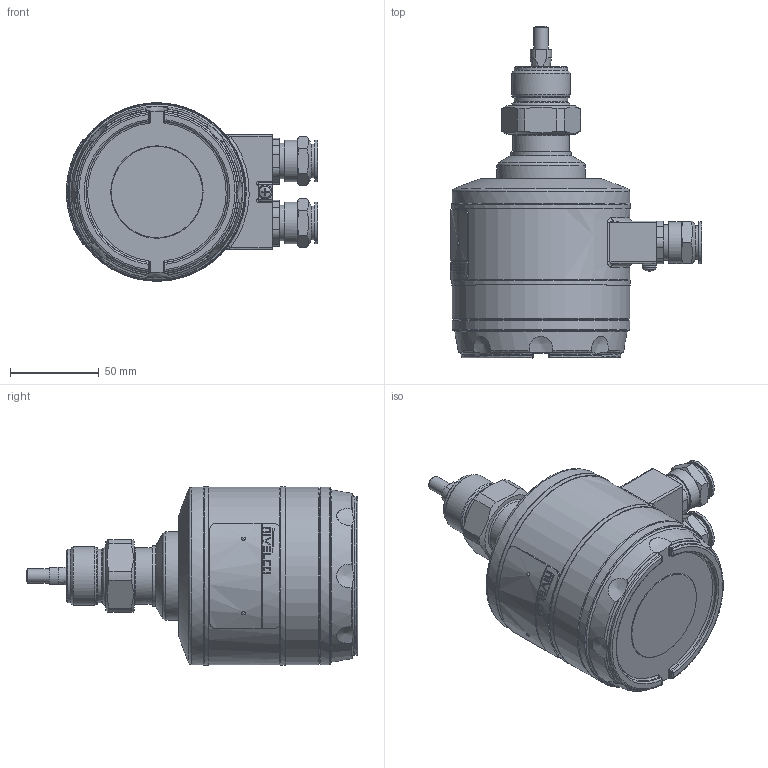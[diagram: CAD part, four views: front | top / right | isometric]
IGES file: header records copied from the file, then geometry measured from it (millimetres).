
Global section: file name: HT_Xház_1.5 col,; native system: Autodesk Inventor 2015; preprocessor: unknown; author: aantal; date: 20150713.100133; units: millimetre
Bounding box: 141.5 x 187 x 100.56 mm (x, y, z)
Volume: 871036.8 mm3; surface area: 84628.9 mm2
Topology: 10 solids, 10 shells, 401 faces, 999 edges, 649 vertices
Faces by surface type: bspline 401
